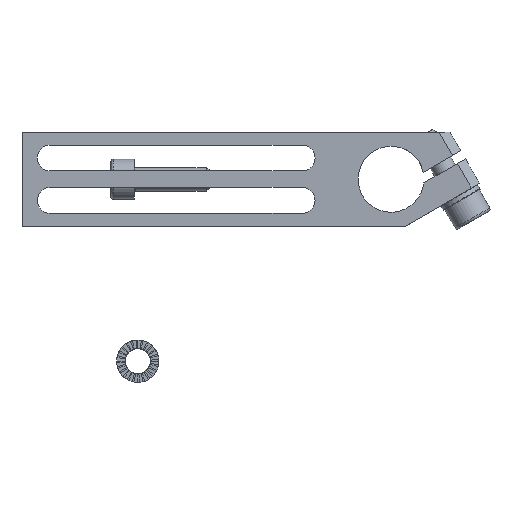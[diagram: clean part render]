
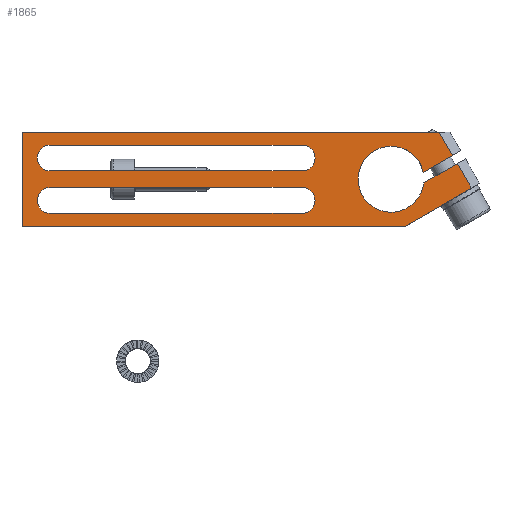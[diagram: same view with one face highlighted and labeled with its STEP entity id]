
A CAD part, top view. The second image highlights one B-rep face of the part: STEP entity #1865.
In plain terms, the highlighted planar face has unit normal (0, 0, 1).
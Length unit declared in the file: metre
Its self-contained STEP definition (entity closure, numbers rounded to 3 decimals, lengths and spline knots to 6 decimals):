
#1865 = ADVANCED_FACE( '', ( #3846, #3847, #3848 ), #3849, .F. );
#3846 = FACE_BOUND( '', #4717, .T. );
#3847 = FACE_BOUND( '', #4718, .T. );
#3848 = FACE_OUTER_BOUND( '', #4719, .T. );
#3849 = PLANE( '', #4720 );
#4717 = EDGE_LOOP( '', ( #6017, #6018, #6019, #6020 ) );
#4718 = EDGE_LOOP( '', ( #6021, #6022, #6023, #6024 ) );
#4719 = EDGE_LOOP( '', ( #6025, #6026, #6027, #6028, #6029, #6030, #6031, #6032, #6033 ) );
#4720 = AXIS2_PLACEMENT_3D( '', #6034, #6035, #6036 );
#6017 = ORIENTED_EDGE( '', *, *, #7848, .F. );
#6018 = ORIENTED_EDGE( '', *, *, #7849, .F. );
#6019 = ORIENTED_EDGE( '', *, *, #7850, .F. );
#6020 = ORIENTED_EDGE( '', *, *, #7851, .F. );
#6021 = ORIENTED_EDGE( '', *, *, #7852, .F. );
#6022 = ORIENTED_EDGE( '', *, *, #7853, .F. );
#6023 = ORIENTED_EDGE( '', *, *, #7854, .F. );
#6024 = ORIENTED_EDGE( '', *, *, #7855, .F. );
#6025 = ORIENTED_EDGE( '', *, *, #7856, .F. );
#6026 = ORIENTED_EDGE( '', *, *, #7857, .T. );
#6027 = ORIENTED_EDGE( '', *, *, #7858, .F. );
#6028 = ORIENTED_EDGE( '', *, *, #7836, .F. );
#6029 = ORIENTED_EDGE( '', *, *, #7819, .F. );
#6030 = ORIENTED_EDGE( '', *, *, #7859, .T. );
#6031 = ORIENTED_EDGE( '', *, *, #7847, .T. );
#6032 = ORIENTED_EDGE( '', *, *, #7842, .F. );
#6033 = ORIENTED_EDGE( '', *, *, #7860, .F. );
#6034 = CARTESIAN_POINT( '', ( -0.0784, 0.01, 0.01 ) );
#6035 = DIRECTION( '', ( 0., 0., -1. ) );
#6036 = DIRECTION( '', ( -1., 0., 0. ) );
#7819 = EDGE_CURVE( '', #8880, #8882, #8883, .T. );
#7836 = EDGE_CURVE( '', #8882, #8914, #8915, .T. );
#7842 = EDGE_CURVE( '', #8924, #8925, #8926, .T. );
#7847 = EDGE_CURVE( '', #8931, #8925, #8933, .T. );
#7848 = EDGE_CURVE( '', #8934, #8935, #8936, .T. );
#7849 = EDGE_CURVE( '', #8937, #8934, #8938, .T. );
#7850 = EDGE_CURVE( '', #8939, #8937, #8940, .T. );
#7851 = EDGE_CURVE( '', #8935, #8939, #8941, .T. );
#7852 = EDGE_CURVE( '', #8942, #8943, #8944, .T. );
#7853 = EDGE_CURVE( '', #8945, #8942, #8946, .T. );
#7854 = EDGE_CURVE( '', #8947, #8945, #8948, .T. );
#7855 = EDGE_CURVE( '', #8943, #8947, #8949, .T. );
#7856 = EDGE_CURVE( '', #8950, #8951, #8952, .T. );
#7857 = EDGE_CURVE( '', #8950, #8953, #8954, .T. );
#7858 = EDGE_CURVE( '', #8914, #8953, #8955, .T. );
#7859 = EDGE_CURVE( '', #8880, #8931, #8956, .T. );
#7860 = EDGE_CURVE( '', #8951, #8924, #8957, .F. );
#8880 = VERTEX_POINT( '', #9050 );
#8882 = VERTEX_POINT( '', #9053 );
#8883 = LINE( '', #9054, #9055 );
#8914 = VERTEX_POINT( '', #9098 );
#8915 = LINE( '', #9099, #9100 );
#8924 = VERTEX_POINT( '', #9113 );
#8925 = VERTEX_POINT( '', #9114 );
#8926 = LINE( '', #9115, #9116 );
#8931 = VERTEX_POINT( '', #9124 );
#8933 = LINE( '', #9127, #9128 );
#8934 = VERTEX_POINT( '', #9129 );
#8935 = VERTEX_POINT( '', #9130 );
#8936 = LINE( '', #9131, #9132 );
#8937 = VERTEX_POINT( '', #9133 );
#8938 = CIRCLE( '', #9134, 0.00275 );
#8939 = VERTEX_POINT( '', #9135 );
#8940 = LINE( '', #9136, #9137 );
#8941 = CIRCLE( '', #9138, 0.00275 );
#8942 = VERTEX_POINT( '', #9139 );
#8943 = VERTEX_POINT( '', #9140 );
#8944 = LINE( '', #9141, #9142 );
#8945 = VERTEX_POINT( '', #9143 );
#8946 = CIRCLE( '', #9144, 0.00275 );
#8947 = VERTEX_POINT( '', #9145 );
#8948 = LINE( '', #9146, #9147 );
#8949 = CIRCLE( '', #9148, 0.00275 );
#8950 = VERTEX_POINT( '', #9149 );
#8951 = VERTEX_POINT( '', #9150 );
#8952 = LINE( '', #9151, #9152 );
#8953 = VERTEX_POINT( '', #9153 );
#8954 = LINE( '', #9154, #9155 );
#8955 = LINE( '', #9156, #9157 );
#8956 = LINE( '', #9158, #9159 );
#8957 = CIRCLE( '', #9160, 0.007 );
#9050 = CARTESIAN_POINT( '', ( 0.003, -0.01, 0.01 ) );
#9053 = CARTESIAN_POINT( '', ( -0.0784, -0.01, 0.01 ) );
#9054 = CARTESIAN_POINT( '', ( 0.0188, -0.01, 0.01 ) );
#9055 = VECTOR( '', #9288, 1. );
#9098 = CARTESIAN_POINT( '', ( -0.0784, 0.01, 0.01 ) );
#9099 = CARTESIAN_POINT( '', ( -0.0784, -0.01, 0.01 ) );
#9100 = VECTOR( '', #9313, 1. );
#9113 = CARTESIAN_POINT( '', ( 0.006955, -0.000788, 0.01 ) );
#9114 = CARTESIAN_POINT( '', ( 0.014068, 0.003318, 0.01 ) );
#9115 = CARTESIAN_POINT( '', ( 0.00281, -0.003182, 0.01 ) );
#9116 = VECTOR( '', #9321, 1. );
#9124 = CARTESIAN_POINT( '', ( 0.017068, -0.001878, 0.01 ) );
#9127 = CARTESIAN_POINT( '', ( -0.011942, 0.048369, 0.01 ) );
#9128 = VECTOR( '', #9326, 1. );
#9129 = CARTESIAN_POINT( '', ( -0.0189, 0.00725, 0.01 ) );
#9130 = CARTESIAN_POINT( '', ( -0.0724, 0.00725, 0.01 ) );
#9131 = CARTESIAN_POINT( '', ( -0.0189, 0.00725, 0.01 ) );
#9132 = VECTOR( '', #9327, 1. );
#9133 = CARTESIAN_POINT( '', ( -0.0189, 0.00175, 0.01 ) );
#9134 = AXIS2_PLACEMENT_3D( '', #9328, #9329, #9330 );
#9135 = CARTESIAN_POINT( '', ( -0.0724, 0.00175, 0.01 ) );
#9136 = CARTESIAN_POINT( '', ( -0.0189, 0.00175, 0.01 ) );
#9137 = VECTOR( '', #9331, 1. );
#9138 = AXIS2_PLACEMENT_3D( '', #9332, #9333, #9334 );
#9139 = CARTESIAN_POINT( '', ( -0.0189, -0.00175, 0.01 ) );
#9140 = CARTESIAN_POINT( '', ( -0.0724, -0.00175, 0.01 ) );
#9141 = CARTESIAN_POINT( '', ( -0.0189, -0.00175, 0.01 ) );
#9142 = VECTOR( '', #9335, 1. );
#9143 = CARTESIAN_POINT( '', ( -0.0189, -0.00725, 0.01 ) );
#9144 = AXIS2_PLACEMENT_3D( '', #9336, #9337, #9338 );
#9145 = CARTESIAN_POINT( '', ( -0.0724, -0.00725, 0.01 ) );
#9146 = CARTESIAN_POINT( '', ( -0.0189, -0.00725, 0.01 ) );
#9147 = VECTOR( '', #9339, 1. );
#9148 = AXIS2_PLACEMENT_3D( '', #9340, #9341, #9342 );
#9149 = CARTESIAN_POINT( '', ( 0.013068, 0.00505, 0.01 ) );
#9150 = CARTESIAN_POINT( '', ( 0.006846, 0.001458, 0.01 ) );
#9151 = CARTESIAN_POINT( '', ( 0.0148, 0.00605, 0.01 ) );
#9152 = VECTOR( '', #9343, 1. );
#9153 = CARTESIAN_POINT( '', ( 0.01021, 0.01, 0.01 ) );
#9154 = CARTESIAN_POINT( '', ( -0.011942, 0.048369, 0.01 ) );
#9155 = VECTOR( '', #9344, 1. );
#9156 = CARTESIAN_POINT( '', ( -0.0784, 0.01, 0.01 ) );
#9157 = VECTOR( '', #9345, 1. );
#9158 = CARTESIAN_POINT( '', ( -0.04939, -0.040247, 0.01 ) );
#9159 = VECTOR( '', #9346, 1. );
#9160 = AXIS2_PLACEMENT_3D( '', #9347, #9348, #9349 );
#9288 = DIRECTION( '', ( -1., 0., 0. ) );
#9313 = DIRECTION( '', ( 0., 1., 0. ) );
#9321 = DIRECTION( '', ( 0.866, 0.5, 0. ) );
#9326 = DIRECTION( '', ( -0.5, 0.866, 0. ) );
#9327 = DIRECTION( '', ( -1., 0., 0. ) );
#9328 = CARTESIAN_POINT( '', ( -0.0189, 0.0045, 0.01 ) );
#9329 = DIRECTION( '', ( 0., 0., 1. ) );
#9330 = DIRECTION( '', ( 0., -1., 0. ) );
#9331 = DIRECTION( '', ( 1., 0., 0. ) );
#9332 = CARTESIAN_POINT( '', ( -0.0724, 0.0045, 0.01 ) );
#9333 = DIRECTION( '', ( 0., 0., 1. ) );
#9334 = DIRECTION( '', ( 0., 1., 0. ) );
#9335 = DIRECTION( '', ( -1., 0., 0. ) );
#9336 = CARTESIAN_POINT( '', ( -0.0189, -0.0045, 0.01 ) );
#9337 = DIRECTION( '', ( 0., 0., 1. ) );
#9338 = DIRECTION( '', ( 0., -1., 0. ) );
#9339 = DIRECTION( '', ( 1., 0., 0. ) );
#9340 = CARTESIAN_POINT( '', ( -0.0724, -0.0045, 0.01 ) );
#9341 = DIRECTION( '', ( 0., 0., 1. ) );
#9342 = DIRECTION( '', ( 0., 1., 0. ) );
#9343 = DIRECTION( '', ( -0.866, -0.5, 0. ) );
#9344 = DIRECTION( '', ( -0.5, 0.866, 0. ) );
#9345 = DIRECTION( '', ( 1., 0., 0. ) );
#9346 = DIRECTION( '', ( 0.866, 0.5, 0. ) );
#9347 = CARTESIAN_POINT( '', ( 0., 0., 0.01 ) );
#9348 = DIRECTION( '', ( 0., 0., -1. ) );
#9349 = DIRECTION( '', ( -1., 0., 0. ) );
